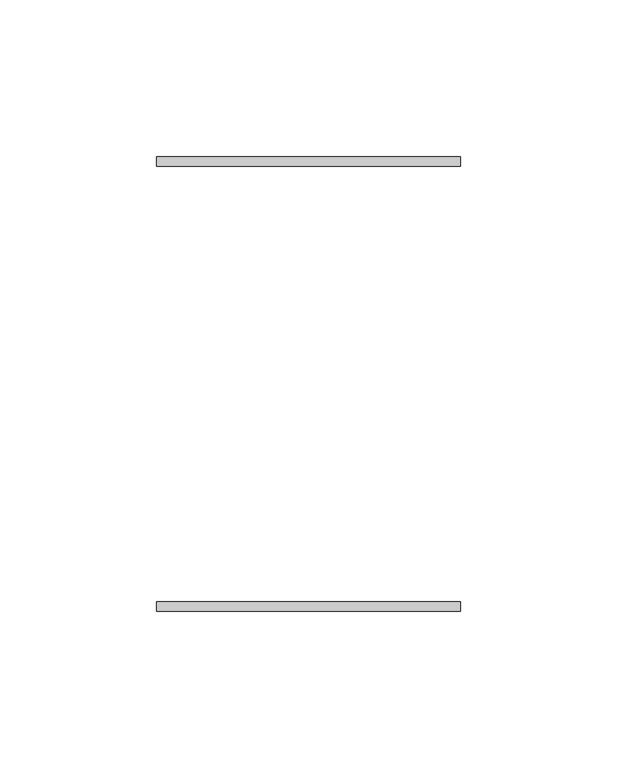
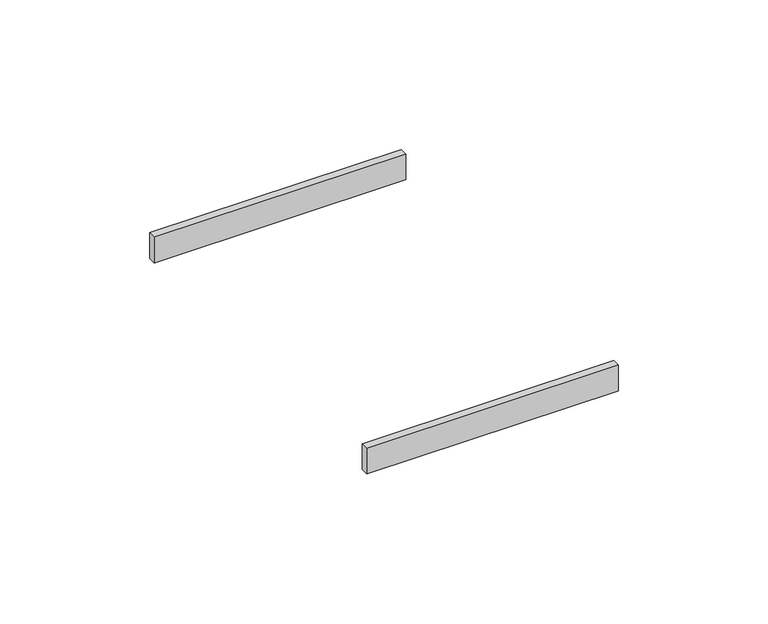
"""IFC4 building model written with IfcOpenShell, lengths in millimetres: cable carrier fitting geometry, Electrical_Installation_Hager_Trunking-Connector : Electrical_Installation_Hager_Trunking-Connector."""

from ifc_helpers import new_model, si_unit, frame, origin, place, context, project, spatial, polyline, outline, extrude, source, transform, mapped, element, save


def cable_carrier_fitting_c523f5b3(model_context):
    return source(origin(), model_context, "Body", "SweptSolid", [
        extrude(outline(polyline([(48.4677977, -69.5), (48.4677977, -72.5), (-48.4677977, -72.5), (-48.4677977, -69.5), (48.4677977, -69.5)])), frame((0.0, 0.0, -1.5), z_axis=(0.0, 0.0, 1.0), x_axis=(1.0, 0.0, 0.0)), (0.0, 0.0, 1.0), 10.5),
        extrude(outline(polyline([(48.4677977, 72.5), (48.4677977, 69.5), (-48.4677977, 69.5), (-48.4677977, 72.5), (48.4677977, 72.5)])), frame((0.0, 0.0, -1.5), z_axis=(0.0, 0.0, 1.0), x_axis=(1.0, 0.0, 0.0)), (0.0, 0.0, 1.0), 10.5),
    ])


if __name__ == "__main__":
    model = new_model("IFC4")
    model_context = context("Model", 3, world=origin())
    ifc_project = project(units=[si_unit("LENGTHUNIT", "METRE", prefix="MILLI")], contexts=[model_context])
    site = spatial("IfcSite", under=ifc_project)
    building = spatial("IfcBuilding", under=site)
    placement = place(None, origin())
    cable_carrier_fitting_shape = cable_carrier_fitting_c523f5b3(model_context)
    element("IfcCableCarrierFitting", 1, ObjectType="Electrical_Installation_Hager_Trunking-Connector : Electrical_Installation_Hager_Trunking-Connector", at=placement, inside=building, context=model_context, shape_type="MappedRepresentation", body=[
        mapped(cable_carrier_fitting_shape, transform((0.0, 0.0, 0.0), x_axis=(1.0, 0.0, 0.0), y_axis=(0.0, 1.0, 0.0), z_axis=(0.0, 0.0, 1.0))),
    ])
    save(model, "model.ifc")
